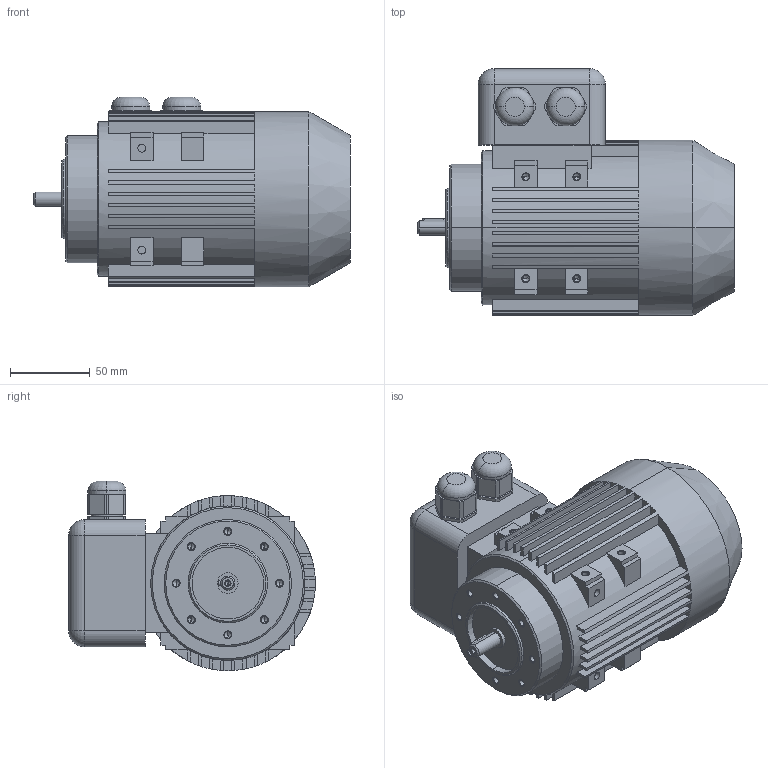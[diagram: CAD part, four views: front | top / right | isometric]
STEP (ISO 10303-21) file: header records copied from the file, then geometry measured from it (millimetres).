
FILE_DESCRIPTION (( 'STEP AP203' ), '1' );
FILE_NAME ('IE-1_56M_80-9(B14).STEP', '2023-06-20T06:13:01', ( '' ), ( '' ), 'SwSTEP 2.0', 'SolidWorks 2022', '' );
FILE_SCHEMA (( 'CONFIG_CONTROL_DESIGN' ));
Length unit declared in the file: millimetre
Products named in the file (1): IE-1_56M_80-9(B14)
Bounding box: 199 x 155 x 119 mm (x, y, z)
Volume: 1725402.4 mm3; surface area: 130856.1 mm2
Topology: 1 solids, 1 shells, 423 faces, 1120 edges, 691 vertices
Faces by surface type: plane 230, cylinder 107, cone 78, torus 4, sphere 4
Entity records: 12921 total; most frequent: DIRECTION 2318, CARTESIAN_POINT 2247, ORIENTED_EDGE 2164, EDGE_CURVE 1082, AXIS2_PLACEMENT_3D 814, VERTEX_POINT 691, LINE 690, VECTOR 690
